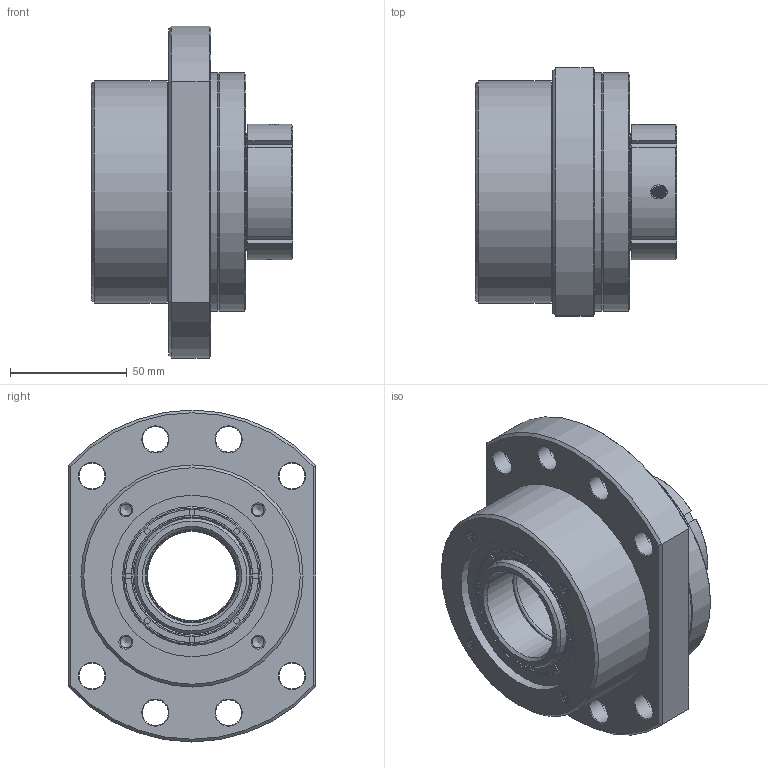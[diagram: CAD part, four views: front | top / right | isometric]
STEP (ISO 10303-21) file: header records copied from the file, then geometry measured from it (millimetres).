
FILE_DESCRIPTION(('STEP AP214'),'1');
FILE_NAME('WBK40DF (2).stp','2016-10-05T11:45:41',(' '),(' '),'Spatial InterOp 3D',' ',' ');
FILE_SCHEMA(('automotive_design'));
Length unit declared in the file: millimetre
Products named in the file (3): Assembly26; WBK40DF_1; WBK40DF
Assembly tree (2 placements, depth 2):
  Assembly26
    WBK40DF_1
    WBK40DF
Bounding box: 86 x 106 x 142 mm (x, y, z)
Volume: 451184 mm3; surface area: 116421.1 mm2
Topology: 2 solids, 31 shells, 1190 faces, 2944 edges, 1769 vertices
Faces by surface type: cone 560, plane 308, torus 120, cylinder 114, sphere 88
Full cylindrical faces by diameter (mm): 5 x10, 6.6 x8, 8 x8, 9 x8, 11 x8, 13 x8, 14 x8, 17.5 x8, 40 x4, 41.2 x1, 49.4 x6, 50 x1, 51.8 x4, 57 x8, 59.4 x3, 63.2 x1, 69 x2, 70.8 x1, 72 x4, 93.8 x1, 95 x1, 102 x2
Entity records: 53284 total; most frequent: CARTESIAN_POINT 9808, DIRECTION 4944, ORIENTED_EDGE 4152, STYLED_ITEM 3222, PRESENTATION_STYLE_ASSIGNMENT 3222, COLOUR_RGB 3222, AXIS2_PLACEMENT_3D 2193, EDGE_CURVE 2076
